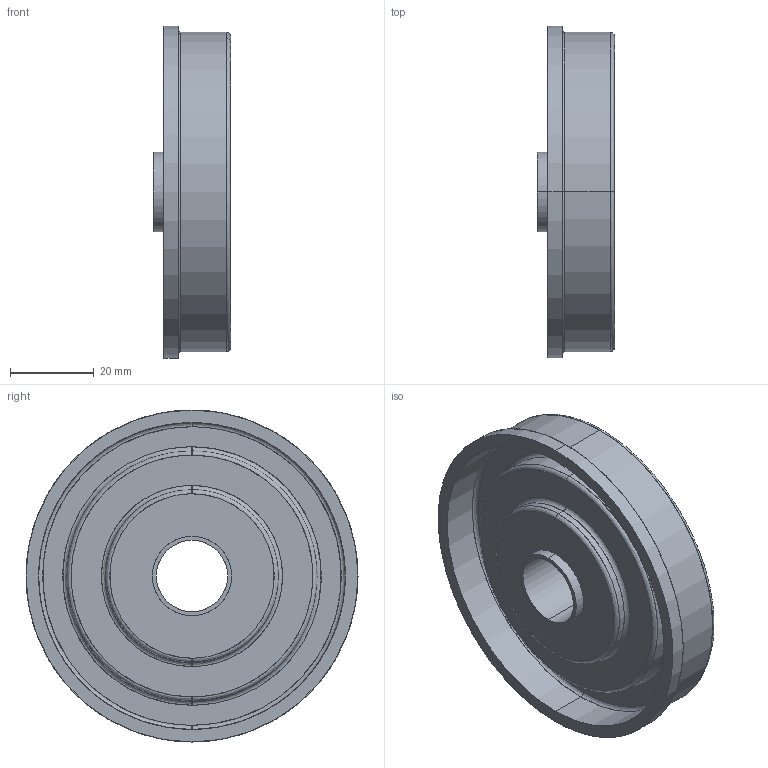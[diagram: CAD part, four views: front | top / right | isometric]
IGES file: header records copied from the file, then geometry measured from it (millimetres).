
Start section: SolidWorks IGES file using analytic representation for surfaces
Global section: file name: C:\Documents and Settings\URETIM3\Desktop\katolg\mtr-80x2.IGS; native system: SolidWorks 2006 by SolidWorks Corporation; preprocessor: SolidWorks 2006 by SolidWorks Corporation; author: URETIM3; date: 061109.105308; units: millimetre
Bounding box: 18.5 x 79.5 x 79.5 mm (x, y, z)
Surface area: 17750.3 mm2 (no closed solid volume)
Topology: 0 solids, 0 shells, 38 faces, 952 edges, 952 vertices
Faces by surface type: bspline 22, revolution 16
